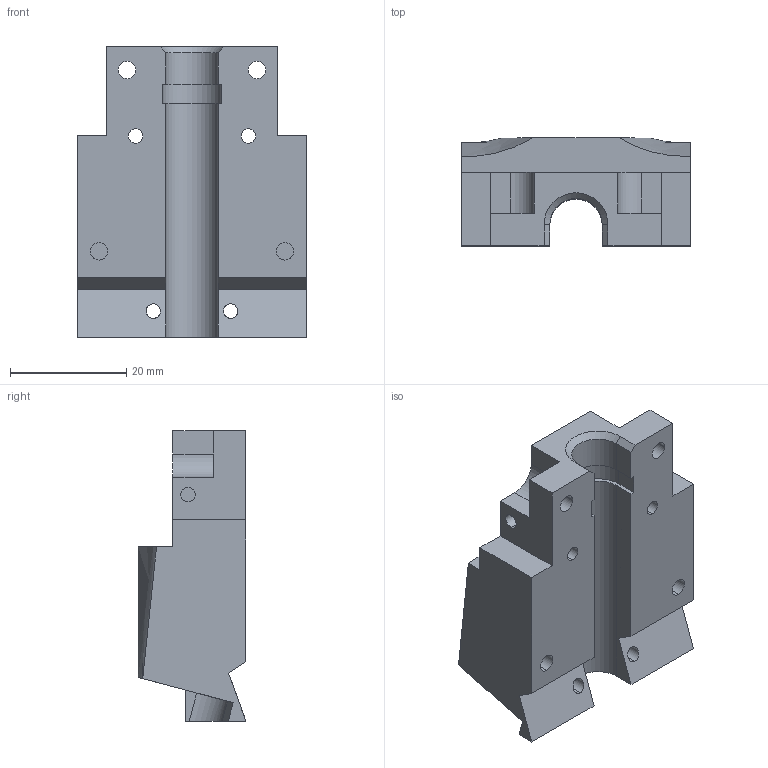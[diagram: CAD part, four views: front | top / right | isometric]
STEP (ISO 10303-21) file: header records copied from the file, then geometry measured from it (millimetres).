
FILE_DESCRIPTION (( 'STEP AP214' ), '1' );
FILE_NAME ('Ì44_ÏÌ_Êðûøêà ðóëåâîé.STEP', '2019-03-21T14:08:35', ( '' ), ( '' ), 'SwSTEP 2.0', 'SolidWorks 2018', '' );
FILE_SCHEMA (( 'AUTOMOTIVE_DESIGN' ));
Length unit declared in the file: millimetre
Products named in the file (1): Ì44_ÏÌ_Êðûøêà ðóëåâîé
Bounding box: 39.4 x 18.58 x 50 mm (x, y, z)
Volume: 21037.6 mm3; surface area: 8027.2 mm2
Topology: 1 solids, 1 shells, 91 faces, 253 edges, 168 vertices
Faces by surface type: plane 53, cylinder 35, bspline 2, cone 1
Entity records: 3106 total; most frequent: CARTESIAN_POINT 703, ORIENTED_EDGE 506, DIRECTION 472, EDGE_CURVE 253, VERTEX_POINT 168, LINE 166, VECTOR 166, AXIS2_PLACEMENT_3D 153
